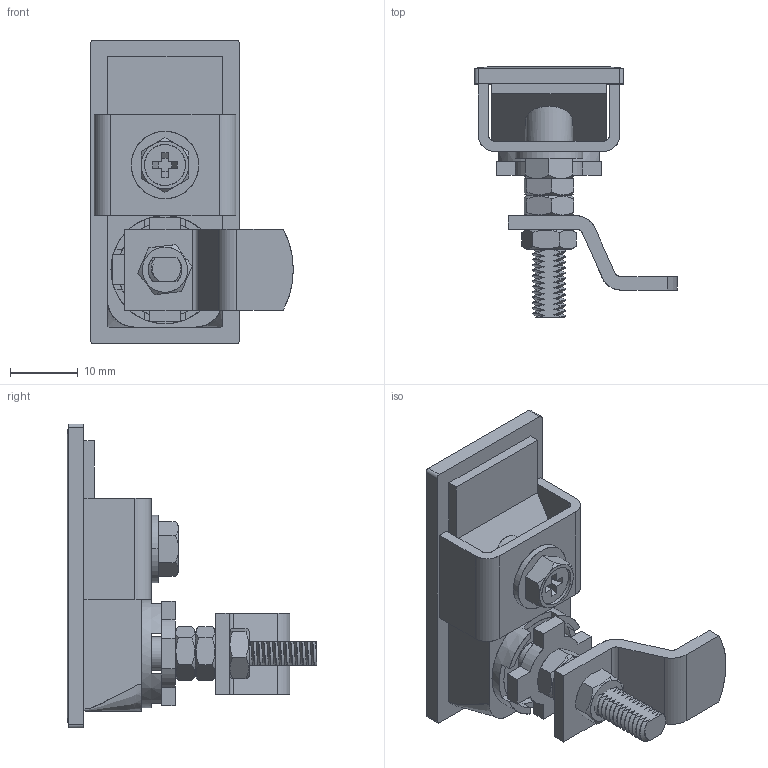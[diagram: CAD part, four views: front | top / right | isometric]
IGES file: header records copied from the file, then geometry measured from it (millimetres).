
Start section: SolidWorks IGES file using analytic representation for surfaces
Global section: file name: D:\尚坤工业图纸\SK1--门锁系列\SK1-052-2\SK1-052-2.IGS; native system: SolidWorks 2015; preprocessor: SolidWorks 2015; author: admin; date: 181101.102833; units: millimetre
Bounding box: 30 x 37 x 45 mm (x, y, z)
Surface area: 8224.2 mm2 (no closed solid volume)
Topology: 0 solids, 0 shells, 455 faces, 5480 edges, 5478 vertices
Faces by surface type: bspline 277, revolution 178
